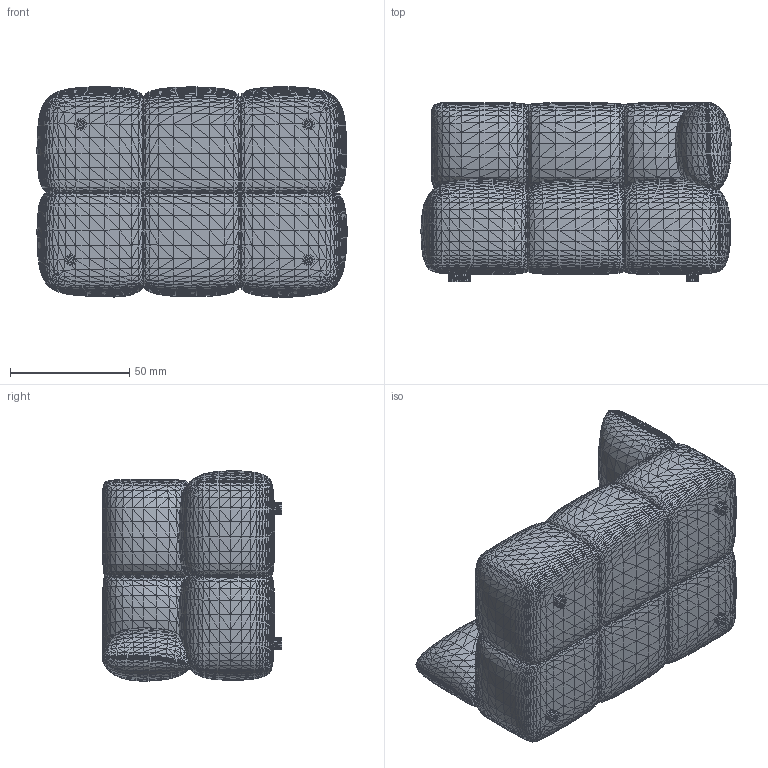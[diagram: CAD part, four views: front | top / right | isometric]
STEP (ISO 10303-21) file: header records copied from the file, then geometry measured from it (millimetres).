
FILE_DESCRIPTION((''),'2;1');
FILE_NAME('End_section_sofa_130', '2025-04-29T14:21:48', (''), (''), 'ImageToStl.com STEP Converter','', '');
FILE_SCHEMA(('AUTOMOTIVE_DESIGN_CC2'));
Length unit declared in the file: metre
Products named in the file (3): product0; product1; product2
Bounding box: 129.85 x 75.02 x 88.13 mm (x, y, z)
Topology: 0 solids, 16288 shells, 16288 faces, 48832 edges, 9232 vertices
Faces by surface type: plane 16288
Entity records: 376846 total; most frequent: DIRECTION 81442, ORIENTED_EDGE 48864, EDGE_CURVE 48864, LINE 48864, VECTOR 48864, AXIS2_PLACEMENT_3D 16289, FACE_SURFACE 16288, PLANE 16288
